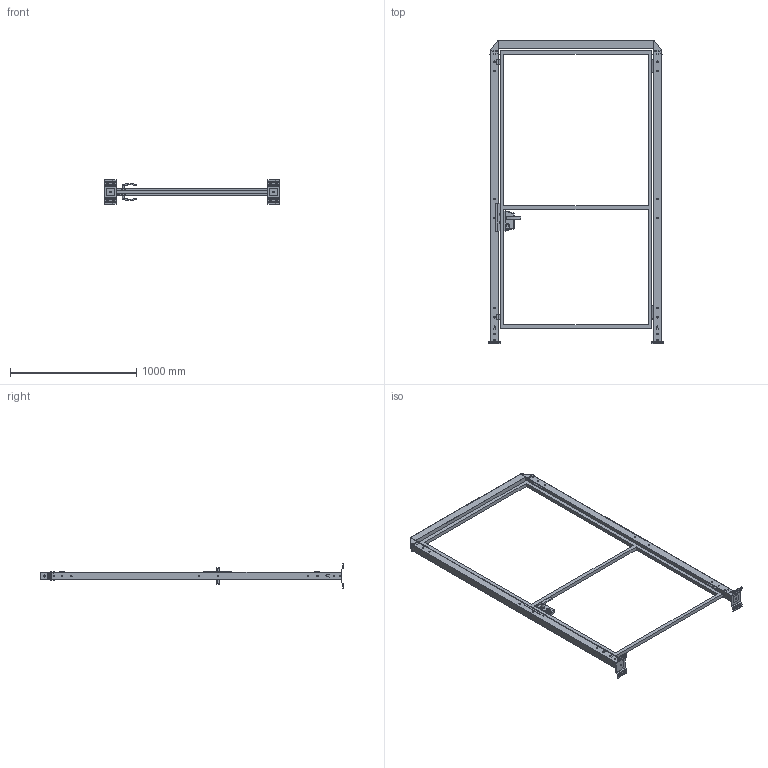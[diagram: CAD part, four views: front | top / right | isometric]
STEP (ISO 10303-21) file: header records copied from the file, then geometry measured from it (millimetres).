
FILE_DESCRIPTION(('STEP AP242'),'1');
FILE_NAME('vfda_bscgd03_12002320.stp','2025-01-31T11:25:55',('TraceParts'),('TraceParts S.A.'),'Spatial InterOp 3D',' ',' ');
FILE_SCHEMA(('AP242_MANAGED_MODEL_BASED_3D_ENGINEERING_MIM_LF {1 0 10303 442 1 1 4}'));
Length unit declared in the file: millimetre
Products named in the file (1): vfda_bscgd03_12002320_1
Bounding box: 1390 x 2401 x 192 mm (x, y, z)
Volume: 9930488.3 mm3; surface area: 3983425 mm2
Topology: 13 solids, 13 shells, 1629 faces, 4331 edges, 2766 vertices
Faces by surface type: plane 807, cylinder 554, bspline 194, cone 46, torus 28
Entity records: 67608 total; most frequent: CARTESIAN_POINT 14334, ORIENTED_EDGE 8662, DIRECTION 7987, EDGE_CURVE 4331, VERTEX_POINT 2766, AXIS2_PLACEMENT_3D 2674, LINE 2639, VECTOR 2639
